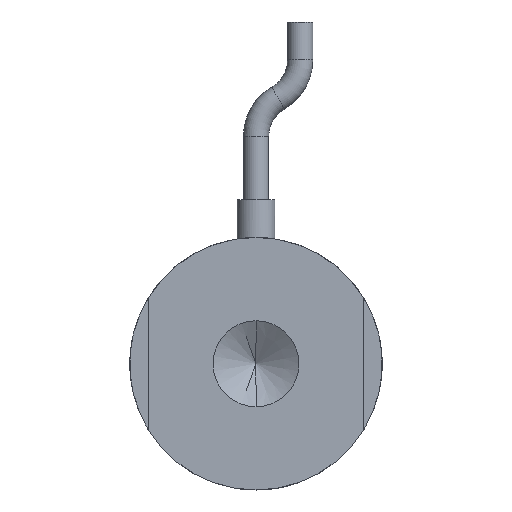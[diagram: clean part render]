
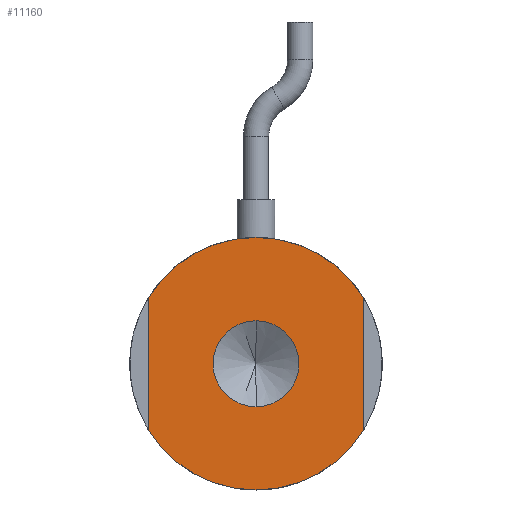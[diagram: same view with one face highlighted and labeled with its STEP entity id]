
A CAD part, front view. The second image highlights one B-rep face of the part: STEP entity #11160.
In plain terms, the highlighted planar face has unit normal (0, -1, 0).
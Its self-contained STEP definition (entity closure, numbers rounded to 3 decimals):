
#427 = EDGE_CURVE ( 'NONE', #21509, #42376, #34604, .T. ) ;
#1160 = CARTESIAN_POINT ( 'NONE',  ( 0., 0., -3.4 ) ) ;
#1562 = VERTEX_POINT ( 'NONE', #1160 ) ;
#3552 = CARTESIAN_POINT ( 'NONE',  ( -8.5, 0., -5.268 ) ) ;
#4430 = VERTEX_POINT ( 'NONE', #11440 ) ;
#4516 = DIRECTION ( 'NONE',  ( 0., -1., 0. ) ) ;
#5038 = CARTESIAN_POINT ( 'NONE',  ( 0., 0., 0. ) ) ;
#5740 = CARTESIAN_POINT ( 'NONE',  ( 0., 0., -10. ) ) ;
#6124 = VERTEX_POINT ( 'NONE', #5740 ) ;
#6588 = DIRECTION ( 'NONE',  ( 0., 1., 0. ) ) ;
#7339 = AXIS2_PLACEMENT_3D ( 'NONE', #30595, #40993, #21142 ) ;
#7672 = ORIENTED_EDGE ( 'NONE', *, *, #427, .F. ) ;
#8107 = VECTOR ( 'NONE', #12371, 1000. ) ;
#8215 = ORIENTED_EDGE ( 'NONE', *, *, #20726, .F. ) ;
#8302 = DIRECTION ( 'NONE',  ( 0., 0., 1. ) ) ;
#8497 = AXIS2_PLACEMENT_3D ( 'NONE', #11237, #34419, #14564 ) ;
#8585 = ORIENTED_EDGE ( 'NONE', *, *, #18000, .F. ) ;
#9520 = AXIS2_PLACEMENT_3D ( 'NONE', #5038, #28095, #8302 ) ;
#10567 = EDGE_CURVE ( 'NONE', #1562, #30520, #36220, .T. ) ;
#10660 = EDGE_LOOP ( 'NONE', ( #7672, #25567, #36342, #13497, #30343, #8585 ) ) ;
#11160 = ADVANCED_FACE ( 'NONE', ( #37731, #28905 ), #37671, .F. ) ;
#11227 = EDGE_CURVE ( 'NONE', #6124, #21509, #27875, .T. ) ;
#11237 = CARTESIAN_POINT ( 'NONE',  ( 0., 0., 0. ) ) ;
#11440 = CARTESIAN_POINT ( 'NONE',  ( 8.5, 0., 5.268 ) ) ;
#11526 = VERTEX_POINT ( 'NONE', #36215 ) ;
#12371 = DIRECTION ( 'NONE',  ( 0., 0., -1. ) ) ;
#12760 = DIRECTION ( 'NONE',  ( 0., 1., 0. ) ) ;
#13497 = ORIENTED_EDGE ( 'NONE', *, *, #15339, .F. ) ;
#13814 = CARTESIAN_POINT ( 'NONE',  ( 0., 0., 0. ) ) ;
#14564 = DIRECTION ( 'NONE',  ( 0., 0., 1. ) ) ;
#15339 = EDGE_CURVE ( 'NONE', #4430, #11526, #35544, .T. ) ;
#16546 = VERTEX_POINT ( 'NONE', #38170 ) ;
#16969 = VECTOR ( 'NONE', #34230, 1000. ) ;
#17135 = DIRECTION ( 'NONE',  ( 0., 0., -1. ) ) ;
#18000 = EDGE_CURVE ( 'NONE', #42376, #16546, #20932, .T. ) ;
#19448 = EDGE_CURVE ( 'NONE', #11526, #6124, #33356, .T. ) ;
#20726 = EDGE_CURVE ( 'NONE', #30520, #1562, #25506, .T. ) ;
#20932 = CIRCLE ( 'NONE', #8497, 10. ) ;
#21142 = DIRECTION ( 'NONE',  ( 0., 0., 1. ) ) ;
#21509 = VERTEX_POINT ( 'NONE', #3552 ) ;
#22975 = CARTESIAN_POINT ( 'NONE',  ( -8.5, 0., 5.268 ) ) ;
#24235 = CARTESIAN_POINT ( 'NONE',  ( 0., 0., 0. ) ) ;
#24783 = AXIS2_PLACEMENT_3D ( 'NONE', #13814, #36984, #17135 ) ;
#25506 = CIRCLE ( 'NONE', #24783, 3.4 ) ;
#25567 = ORIENTED_EDGE ( 'NONE', *, *, #11227, .F. ) ;
#26354 = CARTESIAN_POINT ( 'NONE',  ( 0., 0., 0. ) ) ;
#27575 = DIRECTION ( 'NONE',  ( 0., 0., -1. ) ) ;
#27875 = CIRCLE ( 'NONE', #9520, 10. ) ;
#28095 = DIRECTION ( 'NONE',  ( 0., 1., 0. ) ) ;
#28905 = FACE_OUTER_BOUND ( 'NONE', #10660, .T. ) ;
#29682 = DIRECTION ( 'NONE',  ( 0., 0., 1. ) ) ;
#30269 = EDGE_LOOP ( 'NONE', ( #37227, #8215 ) ) ;
#30343 = ORIENTED_EDGE ( 'NONE', *, *, #34275, .F. ) ;
#30520 = VERTEX_POINT ( 'NONE', #35391 ) ;
#30595 = CARTESIAN_POINT ( 'NONE',  ( 0., 0., 0. ) ) ;
#32207 = CARTESIAN_POINT ( 'NONE',  ( 8.5, 0., 0. ) ) ;
#32597 = CARTESIAN_POINT ( 'NONE',  ( 0., 0., 0. ) ) ;
#33356 = CIRCLE ( 'NONE', #42815, 10. ) ;
#33890 = CARTESIAN_POINT ( 'NONE',  ( -8.5, 0., 0. ) ) ;
#34230 = DIRECTION ( 'NONE',  ( 0., 0., 1. ) ) ;
#34275 = EDGE_CURVE ( 'NONE', #16546, #4430, #36970, .T. ) ;
#34419 = DIRECTION ( 'NONE',  ( 0., 1., 0. ) ) ;
#34604 = LINE ( 'NONE', #33890, #16969 ) ;
#35391 = CARTESIAN_POINT ( 'NONE',  ( 0., 0., 3.4 ) ) ;
#35544 = LINE ( 'NONE', #32207, #8107 ) ;
#35570 = AXIS2_PLACEMENT_3D ( 'NONE', #24235, #4516, #27575 ) ;
#35926 = DIRECTION ( 'NONE',  ( 0., 0., 1. ) ) ;
#36215 = CARTESIAN_POINT ( 'NONE',  ( 8.5, 0., -5.268 ) ) ;
#36220 = CIRCLE ( 'NONE', #35570, 3.4 ) ;
#36342 = ORIENTED_EDGE ( 'NONE', *, *, #19448, .F. ) ;
#36888 = AXIS2_PLACEMENT_3D ( 'NONE', #32597, #12760, #35926 ) ;
#36970 = CIRCLE ( 'NONE', #36888, 10. ) ;
#36984 = DIRECTION ( 'NONE',  ( 0., -1., 0. ) ) ;
#37227 = ORIENTED_EDGE ( 'NONE', *, *, #10567, .F. ) ;
#37671 = PLANE ( 'NONE',  #7339 ) ;
#37731 = FACE_BOUND ( 'NONE', #30269, .T. ) ;
#38170 = CARTESIAN_POINT ( 'NONE',  ( 0., 0., 10. ) ) ;
#40993 = DIRECTION ( 'NONE',  ( 0., 1., 0. ) ) ;
#42376 = VERTEX_POINT ( 'NONE', #22975 ) ;
#42815 = AXIS2_PLACEMENT_3D ( 'NONE', #26354, #6588, #29682 ) ;
